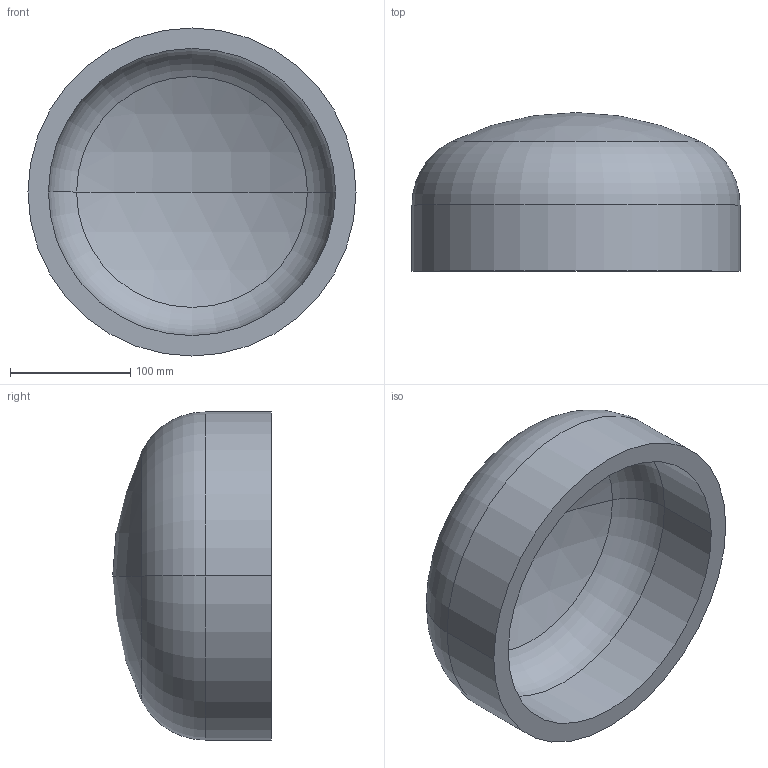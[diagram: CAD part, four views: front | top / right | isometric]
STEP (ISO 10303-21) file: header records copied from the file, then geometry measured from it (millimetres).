
FILE_DESCRIPTION (( 'STEP AP203' ), '1' );
FILE_NAME ('DIN 28013 Korbbogenform_-_Boden DIN 28013 - 273 x 55 - I - s=17.step', '2016-07-01T07:43:18', ( '' ), ( '' ), 'SwSTEP 2.0', 'SolidWorks 2013', '' );
FILE_SCHEMA (( 'CONFIG_CONTROL_DESIGN' ));
Length unit declared in the file: millimetre
Products named in the file (1): DIN 28013 Korbbogenform_-_Boden DIN 28013 - 273 x 55 - I - s=17
Bounding box: 273 x 131.98 x 273 mm (x, y, z)
Volume: 2025026.3 mm3; surface area: 252515.8 mm2
Topology: 1 solids, 1 shells, 13 faces, 24 edges, 14 vertices
Faces by surface type: torus 4, cylinder 4, sphere 4, plane 1
Entity records: 407 total; most frequent: DIRECTION 72, CARTESIAN_POINT 52, ORIENTED_EDGE 48, AXIS2_PLACEMENT_3D 34, EDGE_CURVE 24, CIRCLE 20, VERTEX_POINT 14, EDGE_LOOP 14
